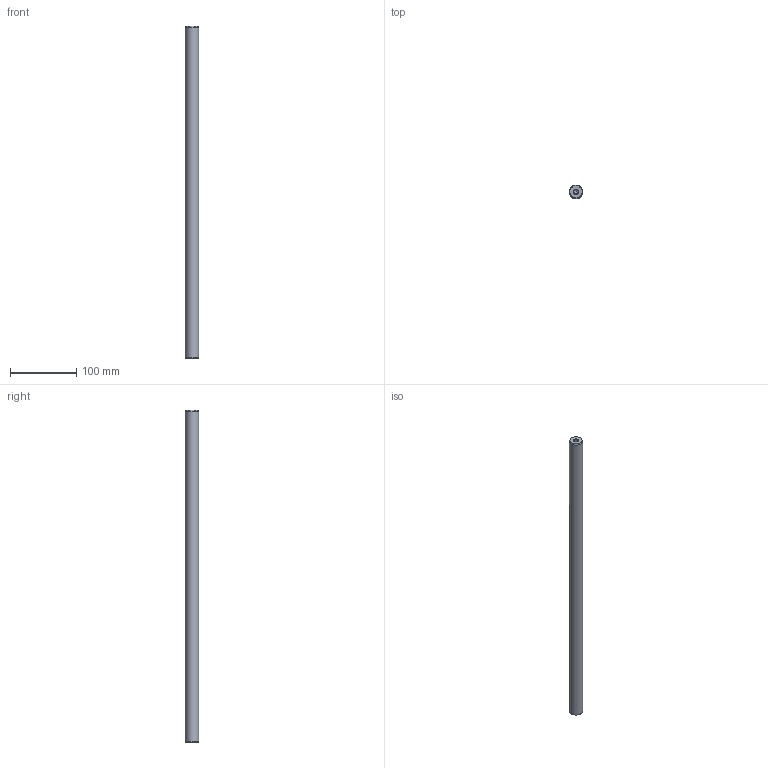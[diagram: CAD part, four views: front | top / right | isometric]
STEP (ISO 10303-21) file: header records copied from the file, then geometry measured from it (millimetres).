
FILE_DESCRIPTION( ( 'STEP AP214' ), '1' );
FILE_NAME( 'U:/Etudes/Top Solid/BIBLIO_Fournisseur/Colonnes UG/Ø20x502.step', '2004-12-22T12:41:53', ( ' ' ), ( ' ' ), 'XStep 1.0', ' ', ' ' );
FILE_SCHEMA( ( 'automotive_design' ) );
Length unit declared in the file: metre
Products named in the file (1): 1
Bounding box: 20 x 20 x 502 mm (x, y, z)
Volume: 156137.9 mm3; surface area: 32986.1 mm2
Topology: 1 solids, 1 shells, 13 faces, 27 edges, 16 vertices
Faces by surface type: cone 6, cylinder 5, plane 2
Full cylindrical faces by diameter (mm): 6.647 x4, 20 x1
Entity records: 382 total; most frequent: DIRECTION 52, CARTESIAN_POINT 40, AXIS2_PLACEMENT_3D 26, EDGE_LOOP 24, ORIENTED_EDGE 24, FACE_OUTER_BOUND 18, VERTEX_POINT 14, STYLED_ITEM 13
